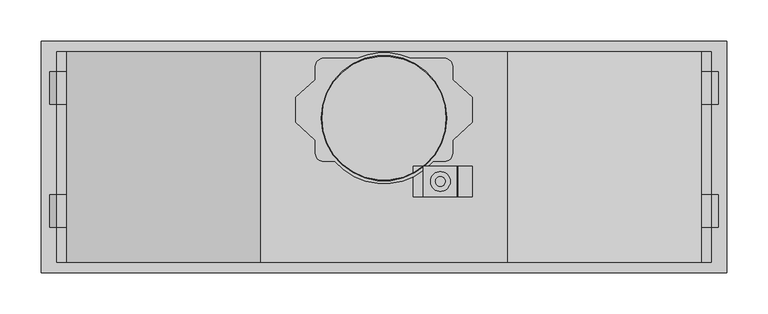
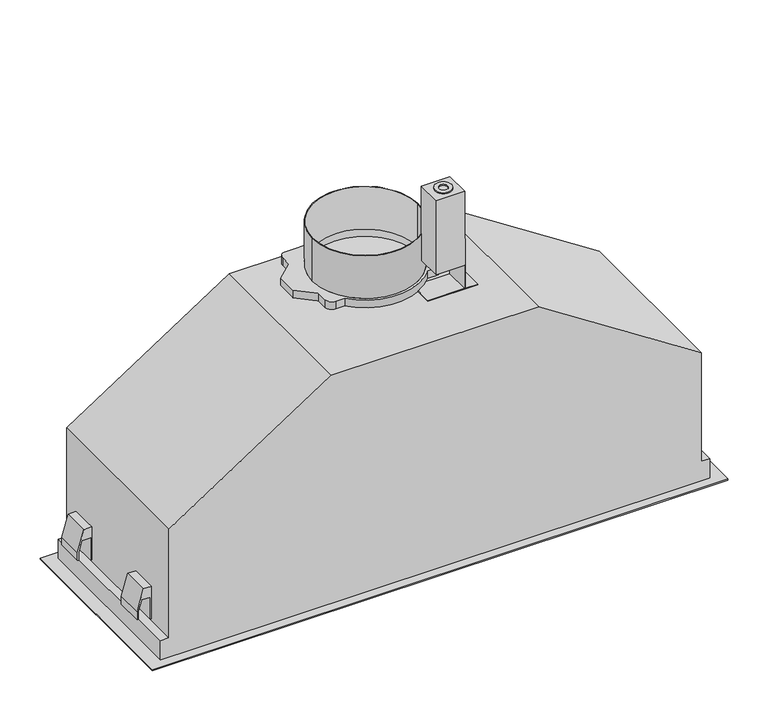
"""IFC4 building model written with IfcOpenShell, lengths in millimetres: proxy geometry, FP-Revit18-HP36ILTX1-InsertRangeHood-0-US-CA-90000955Arfa : FP-Revit18-HP36ILTX1-InsertRangeHood-0-US-CA-90000955Arfa."""

from ifc_helpers import new_model, si_unit, point, frame, frame_2d, origin, place, context, project, spatial, polyline, circle_curve, trimmed, segment, composite_curve, outline, extrude, faceted_brep, source, transform, mapped, element, save


def specialty_equipment_503af9fe(model_context):
    return source(origin(), model_context, "Body", "SolidModel", [
        extrude(outline(polyline([(1914.0, 35.3428123), (1913.0, 35.3428123), (1913.0, 107.0000005), (1914.0, 107.0000005), (1914.0, 89.2917758), (1989.0000149, 89.2917758), (1989.0000149, 88.2917758), (2062.0, 88.2917758), (2062.0, 47.2917758), (1949.0, 47.2917758), (1949.0, 88.2917758), (1914.0, 88.2917758), (1914.0, 35.3428123)])), frame((0.0, -48.2288785, 0.0), z_axis=(0.0, 1.0, 0.0), x_axis=(0.0, 0.0, 1.0)), (0.0, 0.0, 1.0), 37.0000013),
        extrude(outline(polyline([(415.0, -140.0000029), (-415.0, -140.0000029), (-415.0, 140.0000029), (415.0, 140.0000029), (415.0, -140.0000029)]), holes=[polyline([(394.9999982, -66.9999983), (394.9999982, 125.000001), (-394.9999982, 125.000001), (-394.9999982, -66.9999983), (394.9999982, -66.9999983)]), polyline([(145.5, -125.000001), (145.5, -87.0000039), (-145.5, -87.0000039), (-145.5, -125.000001), (145.5, -125.000001)]), composite_curve([segment(trimmed(circle_curve(frame_2d((-337.4999923, -100.0000008)), 25.0000002), [point((-362.4999925, -100.0000008))], [point((-312.4999922, -100.0000008))], True, "CARTESIAN"), True, "CONTINUOUS"), segment(trimmed(circle_curve(frame_2d((-337.4999923, -100.0000008)), 25.0000002), [point((-312.4999922, -100.0000008))], [point((-362.4999925, -100.0000008))], True, "CARTESIAN"), True, "CONTINUOUS")], self_intersect=False), composite_curve([segment(trimmed(circle_curve(frame_2d((337.4999923, -100.0000008)), 25.0000002), [point((312.4999922, -100.0000008))], [point((362.4999925, -100.0000008))], True, "CARTESIAN"), True, "CONTINUOUS"), segment(trimmed(circle_curve(frame_2d((337.4999923, -100.0000008)), 25.0000002), [point((362.4999925, -100.0000008))], [point((312.4999922, -100.0000008))], True, "CARTESIAN"), True, "CONTINUOUS")], self_intersect=False)]), frame((0.0, 0.0, 1563.0), z_axis=(0.0, 0.0, 1.0), x_axis=(1.0, 0.0, 0.0)), (0.0, 0.0, 1.0), 2.0),
        extrude(outline(composite_curve([segment(trimmed(circle_curve(frame_2d((0.0016706, 47.0000154)), 76.0), [point((-75.9983294, 47.0000154))], [point((76.0016706, 47.0000154))], False, "CARTESIAN"), True, "CONTINUOUS"), segment(trimmed(circle_curve(frame_2d((0.0016706, 47.0000154)), 76.0), [point((76.0016706, 47.0000154))], [point((-75.9983294, 47.0000154))], False, "CARTESIAN"), True, "CONTINUOUS")], self_intersect=False), holes=[composite_curve([segment(trimmed(circle_curve(frame_2d((0.0016706, 47.0000154)), 75.0), [point((-74.9983294, 47.0000154))], [point((75.0016706, 47.0000154))], True, "CARTESIAN"), True, "CONTINUOUS"), segment(trimmed(circle_curve(frame_2d((0.0016706, 47.0000154)), 75.0), [point((75.0016706, 47.0000154))], [point((-74.9983294, 47.0000154))], True, "CARTESIAN"), True, "CONTINUOUS")], self_intersect=False)]), frame((0.0, 0.0, 1925.0), z_axis=(0.0, 0.0, 1.0), x_axis=(1.0, 0.0, 0.0)), (0.0, 0.0, 1.0), 65.0),
        faceted_brep([(383.9999974, 127.5, 1760.5579773), (383.9999974, 127.5, 1594.9999999), (395.9999917, 127.5, 1594.9999999), (395.9999917, 127.5, 1565.0), (-395.9999917, 127.5, 1565.0), (-395.9999917, 127.5, 1594.9999999), (-383.9999974, 127.5, 1594.9999999), (-383.9999974, 127.5, 1760.5579773), (-149.5000044, 127.5, 1913.0), (149.5000044, 127.5, 1913.0), (383.9999974, -127.5, 1760.5579773), (149.5000044, -127.5, 1913.0), (-149.5000044, -127.5, 1913.0), (-383.9999974, -127.5, 1760.5579773), (-383.9999974, -127.5, 1594.9999999), (-395.9999917, -127.5, 1594.9999999), (-395.9999917, -127.5, 1565.0), (395.9999917, -127.5, 1565.0), (395.9999917, -127.5, 1594.9999999), (383.9999974, -127.5, 1594.9999999), (145.5, -125.000001, 1565.0), (145.5, -87.0000039, 1565.0), (-145.5, -87.0000039, 1565.0), (-145.5, -125.000001, 1565.0), (395.0, -66.9999983, 1565.0), (395.0, 125.000001, 1565.0), (-395.0, 125.000001, 1565.0), (-395.0, -66.9999983, 1565.0), (145.5, -125.000001, 1578.9999999), (145.5, -112.0000052, 1583.9999987), (-145.5, -112.0000052, 1583.9999987), (-145.5, -125.000001, 1578.9999999), (395.0, -66.9999983, 1592.9999993), (395.0, 116.9999987, 1592.9999993), (395.0, 116.9999987, 1583.0000011), (395.0, 125.000001, 1583.0000011), (-395.0, 125.000001, 1583.0000011), (-395.0, 116.9999987, 1583.0000011), (-395.0, 116.9999987, 1592.9999993), (-395.0, -66.9999983, 1592.9999993)], [[[0, 1, 2, 3, 4, 5, 6, 7, 8, 9]], [[10, 11, 12, 13, 14, 15, 16, 17, 18, 19]], [[7, 6, 14, 13]], [[9, 8, 12, 11]], [[1, 0, 10, 19]], [[2, 1, 19, 18]], [[3, 2, 18, 17]], [[4, 3, 17, 16], [20, 21, 22, 23], [24, 25, 26, 27]], [[5, 4, 16, 15]], [[6, 5, 15, 14]], [[8, 7, 13, 12]], [[0, 9, 11, 10]], [[28, 29, 21, 20]], [[22, 30, 31, 23]], [[31, 28, 20, 23]], [[21, 29, 30, 22]], [[29, 28, 31, 30]], [[32, 33, 34, 35, 25, 24]], [[36, 37, 38, 39, 27, 26]], [[39, 32, 24, 27]], [[35, 36, 26, 25]], [[35, 34, 37, 36]], [[34, 33, 38, 37]], [[33, 32, 39, 38]]]),
        extrude(outline(composite_curve([segment(trimmed(circle_curve(frame_2d((-337.5000014, -100.0000008)), 22.0), [point((-359.5000014, -100.0000008))], [point((-315.5000014, -100.0000008))], False, "CARTESIAN"), True, "CONTINUOUS"), segment(trimmed(circle_curve(frame_2d((-337.5000014, -100.0000008)), 22.0), [point((-315.5000014, -100.0000008))], [point((-359.5000014, -100.0000008))], False, "CARTESIAN"), True, "CONTINUOUS")], self_intersect=False)), frame((0.0, 0.0, 1563.0), z_axis=(0.0, 0.0, 1.0), x_axis=(1.0, 0.0, 0.0)), (0.0, 0.0, 1.0), 3.0),
        extrude(outline(composite_curve([segment(trimmed(circle_curve(frame_2d((337.5000014, -100.0000008)), 22.0), [point((315.5000014, -100.0000008))], [point((359.5000014, -100.0000008))], False, "CARTESIAN"), True, "CONTINUOUS"), segment(trimmed(circle_curve(frame_2d((337.5000014, -100.0000008)), 22.0), [point((359.5000014, -100.0000008))], [point((315.5000014, -100.0000008))], False, "CARTESIAN"), True, "CONTINUOUS")], self_intersect=False)), frame((0.0, 0.0, 1563.0), z_axis=(0.0, 0.0, 1.0), x_axis=(1.0, 0.0, 0.0)), (0.0, 0.0, 1.0), 3.0),
        extrude(outline(composite_curve([segment(trimmed(circle_curve(frame_2d((68.3428119, -29.7288767)), 12.0000011), [point((56.3428108, -29.7288767))], [point((80.3428129, -29.7288767))], False, "CARTESIAN"), True, "CONTINUOUS"), segment(trimmed(circle_curve(frame_2d((68.3428119, -29.7288767)), 12.0000011), [point((80.3428129, -29.7288767))], [point((56.3428108, -29.7288767))], False, "CARTESIAN"), True, "CONTINUOUS")], self_intersect=False), holes=[composite_curve([segment(trimmed(circle_curve(frame_2d((68.3428119, -29.7288767)), 6.000004), [point((62.3428079, -29.7288767))], [point((74.3428158, -29.7288767))], True, "CARTESIAN"), True, "CONTINUOUS"), segment(trimmed(circle_curve(frame_2d((68.3428119, -29.7288767)), 6.000004), [point((74.3428158, -29.7288767))], [point((62.3428079, -29.7288767))], True, "CARTESIAN"), True, "CONTINUOUS")], self_intersect=False)]), frame((0.0, 0.0, 2062.0), z_axis=(0.0, 0.0, 1.0), x_axis=(1.0, 0.0, 0.0)), (0.0, 0.0, 1.0), 2.0),
        extrude(outline(polyline([(10.0000043, 0.0), (10.0000043, -17.4999992), (0.0, -17.4999992), (0.0, 0.0), (10.0000043, 0.0)])), frame((-59.0000006, -103.5283283, 1576.3055037), z_axis=(0.0, 0.6050832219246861, 0.7961622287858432), x_axis=(0.0, 0.7961622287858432, -0.6050832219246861)), (0.0, 0.0, 1.0), 0.9999968),
        extrude(outline(polyline([(10.0000043, -18.0000005), (10.0000043, -35.5000045), (0.0, -35.5000045), (0.0, -18.0000005), (10.0000043, -18.0000005)])), frame((-59.0000006, -103.5283283, 1576.3055037), z_axis=(0.0, 0.6050832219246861, 0.7961622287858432), x_axis=(0.0, 0.7961622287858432, -0.6050832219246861)), (0.0, 0.0, 1.0), 0.9999968),
        extrude(outline(polyline([(10.0000043, -36.000001), (10.0000043, -53.5000056), (0.0, -53.5000056), (0.0, -36.000001), (10.0000043, -36.000001)])), frame((-59.0000006, -103.5283283, 1576.3055037), z_axis=(0.0, 0.6050832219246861, 0.7961622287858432), x_axis=(0.0, 0.7961622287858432, -0.6050832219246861)), (0.0, 0.0, 1.0), 0.9999968),
        extrude(outline(polyline([(10.0000043, -54.0000003), (10.0000043, -64.0000009), (0.0, -64.0000009), (0.0, -54.0000003), (10.0000043, -54.0000003)])), frame((-59.0000006, -103.5283283, 1576.3055037), z_axis=(0.0, 0.6050832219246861, 0.7961622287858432), x_axis=(0.0, 0.7961622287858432, -0.6050832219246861)), (0.0, 0.0, 1.0), 0.9999968),
        extrude(outline(polyline([(10.0000043, -64.5000004), (10.0000043, -82.0000051), (0.0, -82.0000051), (0.0, -64.5000004), (10.0000043, -64.5000004)])), frame((-59.0000006, -103.5283283, 1576.3055037), z_axis=(0.0, 0.6050832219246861, 0.7961622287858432), x_axis=(0.0, 0.7961622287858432, -0.6050832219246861)), (0.0, 0.0, 1.0), 0.9999968),
        extrude(outline(polyline([(10.0000043, -82.5000015), (10.0000043, -100.0000056), (0.0, -100.0000056), (0.0, -82.5000015), (10.0000043, -82.5000015)])), frame((-59.0000006, -103.5283283, 1576.3055037), z_axis=(0.0, 0.6050832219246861, 0.7961622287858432), x_axis=(0.0, 0.7961622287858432, -0.6050832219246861)), (0.0, 0.0, 1.0), 0.9999968),
        extrude(outline(polyline([(10.0000043, -100.500002), (10.0000043, -118.0000061), (0.0, -118.0000061), (0.0, -100.500002), (10.0000043, -100.500002)])), frame((-59.0000006, -103.5283283, 1576.3055037), z_axis=(0.0, 0.6050832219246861, 0.7961622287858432), x_axis=(0.0, 0.7961622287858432, -0.6050832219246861)), (0.0, 0.0, 1.0), 0.9999968),
        extrude(outline(polyline([(377.0000068, -48.2288785), (-377.0000068, -48.2288785), (-377.0000068, 109.2), (377.0000068, 109.2), (377.0000068, -48.2288785)])), frame((0.0, 0.0, 1563.0), z_axis=(0.0, 0.0, 1.0), x_axis=(1.0, 0.0, 0.0)), (0.0, 0.0, 1.0), 3.0),
        extrude(outline(polyline([(1648.0, -396.0), (1616.0, -405.0), (1604.0, -405.0), (1604.0, -403.0), (1616.0, -403.0), (1632.0, -398.5), (1632.0, -386.0), (1598.0, -386.0), (1598.0, -383.9999974), (1648.0, -383.9999974), (1648.0, -396.0)])), frame((0.0, 64.0, 0.0), z_axis=(0.0, 1.0, 0.0), x_axis=(0.0, 0.0, 1.0)), (0.0, 0.0, 1.0), 39.0),
        extrude(outline(polyline([(1648.0, 396.0), (1648.0, 383.9999974), (1598.0, 383.9999974), (1598.0, 386.0), (1632.0, 386.0), (1632.0, 398.5), (1616.0, 403.0), (1604.0, 403.0), (1604.0, 405.0), (1616.0, 405.0), (1648.0, 396.0)])), frame((0.0, 64.0, 0.0), z_axis=(0.0, 1.0, 0.0), x_axis=(0.0, 0.0, 1.0)), (0.0, 0.0, 1.0), 39.0),
        extrude(outline(polyline([(1648.0, -396.0), (1616.0, -405.0), (1604.0, -405.0), (1604.0, -403.0), (1616.0, -403.0), (1632.0, -398.5), (1632.0, -386.0), (1598.0, -386.0), (1598.0, -383.9999974), (1648.0, -383.9999974), (1648.0, -396.0)])), frame((0.0, -85.0, 0.0), z_axis=(0.0, 1.0, 0.0), x_axis=(0.0, 0.0, 1.0)), (0.0, 0.0, 1.0), 39.0),
        extrude(outline(polyline([(1648.0, 396.0), (1648.0, 383.9999974), (1598.0, 383.9999974), (1598.0, 386.0), (1632.0, 386.0), (1632.0, 398.5), (1616.0, 403.0), (1604.0, 403.0), (1604.0, 405.0), (1616.0, 405.0), (1648.0, 396.0)])), frame((0.0, -85.0, 0.0), z_axis=(0.0, 1.0, 0.0), x_axis=(0.0, 0.0, 1.0)), (0.0, 0.0, 1.0), 39.0),
        extrude(outline(composite_curve([segment(trimmed(circle_curve(frame_2d((0.0, 46.9995889)), 79.500375), [point((-32.6190119, 119.5000005))], [point((32.6190119, 119.5000005))], False, "CARTESIAN"), True, "CONTINUOUS"), segment(polyline([(32.6190119, 119.5000005), (73.0000028, 119.5000005)]), True, "CONTINUOUS"), segment(trimmed(circle_curve(frame_2d((73.0000028, 109.5000005)), 10.0), [point((73.0000028, 119.5000005))], [point((83.0000028, 109.5000005))], False, "CARTESIAN"), True, "CONTINUOUS"), segment(polyline([(83.0000028, 109.5000005), (83.0000028, 93.6096978), (107.0000005, 72.0000029), (107.0000005, 41.9999973), (83.0000028, 20.3903023), (83.0000028, 4.5000002)]), True, "CONTINUOUS"), segment(trimmed(circle_curve(frame_2d((73.0000028, 4.5000002)), 10.0), [point((83.0000028, 4.5000002))], [point((73.0000028, -5.4999998))], False, "CARTESIAN"), True, "CONTINUOUS"), segment(polyline([(73.0000028, -5.4999998), (59.6992448, -5.4999998)]), True, "CONTINUOUS"), segment(trimmed(circle_curve(frame_2d((0.0, 47.0002967)), 79.5001948), [point((59.6992448, -5.4999998))], [point((-59.6992448, -5.4999998))], False, "CARTESIAN"), True, "CONTINUOUS"), segment(polyline([(-59.6992448, -5.4999998), (-73.0000028, -5.4999998)]), True, "CONTINUOUS"), segment(trimmed(circle_curve(frame_2d((-73.0000028, 4.5000002)), 10.0), [point((-73.0000028, -5.4999998))], [point((-83.0000028, 4.5000002))], False, "CARTESIAN"), True, "CONTINUOUS"), segment(polyline([(-83.0000028, 4.5000002), (-83.0000028, 20.3903023), (-107.0000005, 41.9999973), (-107.0000005, 72.0000029), (-83.0000028, 93.6096978), (-83.0000028, 109.5000005)]), True, "CONTINUOUS"), segment(trimmed(circle_curve(frame_2d((-73.0000028, 109.5000005)), 10.0), [point((-83.0000028, 109.5000005))], [point((-73.0000028, 119.5000005))], False, "CARTESIAN"), True, "CONTINUOUS"), segment(polyline([(-73.0000028, 119.5000005), (-32.6190119, 119.5000005)]), True, "CONTINUOUS")], self_intersect=False), holes=[composite_curve([segment(trimmed(circle_curve(frame_2d((0.0, 46.9995889)), 76.0), [point((-76.0, 46.9995889))], [point((76.0, 46.9995889))], True, "CARTESIAN"), True, "CONTINUOUS"), segment(trimmed(circle_curve(frame_2d((0.0, 46.9995889)), 76.0), [point((76.0, 46.9995889))], [point((-76.0, 46.9995889))], True, "CARTESIAN"), True, "CONTINUOUS")], self_intersect=False)]), frame((0.0, 0.0, 1913.0), z_axis=(0.0, 0.0, 1.0), x_axis=(1.0, 0.0, 0.0)), (0.0, 0.0, 1.0), 12.0),
    ])


if __name__ == "__main__":
    model = new_model("IFC4")
    model_context = context("Model", 3, world=origin())
    ifc_project = project(units=[si_unit("LENGTHUNIT", "METRE", prefix="MILLI")], contexts=[model_context])
    site = spatial("IfcSite", under=ifc_project)
    building = spatial("IfcBuilding", under=site)
    placement = place(None, origin())
    specialty_equipment_shape = specialty_equipment_503af9fe(model_context)
    element("IfcBuildingElementProxy", 1, Name="FP-Revit18-HP36ILTX1-InsertRangeHood-0-US-CA-90000955Arfa : FP-Revit18-HP36ILTX1-InsertRangeHood-0-US-CA-90000955Arfa", ObjectType="FP-Revit18-HP36ILTX1-InsertRangeHood-0-US-CA-90000955Arfa : FP-Revit18-HP36ILTX1-InsertRangeHood-0-US-CA-90000955Arfa", at=placement, inside=building, context=model_context, shape_type="MappedRepresentation", body=[
        mapped(specialty_equipment_shape, transform((0.0, 0.0, 0.0), x_axis=(1.0, 0.0, 0.0), y_axis=(0.0, 1.0, 0.0), z_axis=(0.0, 0.0, 1.0))),
    ])
    save(model, "model.ifc")
